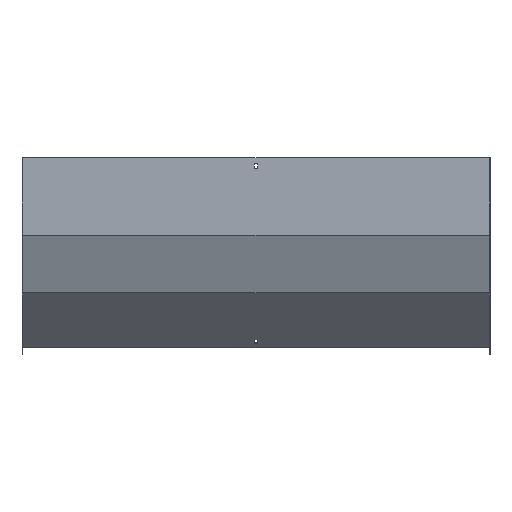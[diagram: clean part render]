
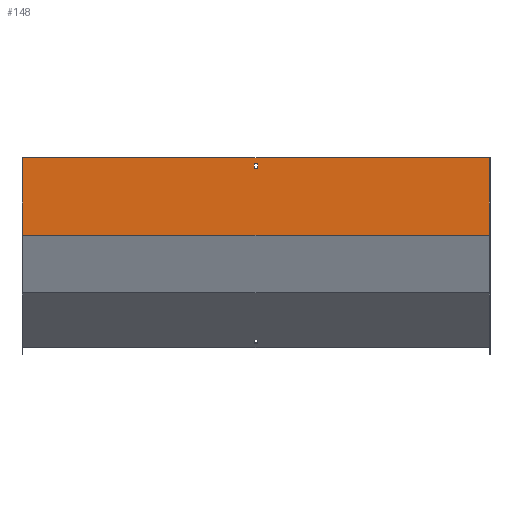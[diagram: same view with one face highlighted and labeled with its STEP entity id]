
A CAD part, front view. The second image highlights one B-rep face of the part: STEP entity #148.
In plain terms, the highlighted planar face has unit normal (0, -1, 0).
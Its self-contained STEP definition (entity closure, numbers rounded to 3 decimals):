
#14 = VERTEX_POINT ( 'NONE', #488 ) ;
#27 = DIRECTION ( 'NONE',  ( -1., 0., 0. ) ) ;
#35 = CARTESIAN_POINT ( 'NONE',  ( 3.25, -1.5, 0. ) ) ;
#38 = CARTESIAN_POINT ( 'NONE',  ( -3.25, -1.5, -12. ) ) ;
#58 = CARTESIAN_POINT ( 'NONE',  ( -3.25, -1.5, 0. ) ) ;
#79 = VERTEX_POINT ( 'NONE', #514 ) ;
#90 = DIRECTION ( 'NONE',  ( 0., 0., -1. ) ) ;
#93 = CARTESIAN_POINT ( 'NONE',  ( -450., -1.5, 0. ) ) ;
#113 = EDGE_CURVE ( 'NONE', #127, #470, #185, .T. ) ;
#118 = ORIENTED_EDGE ( 'NONE', *, *, #176, .T. ) ;
#127 = VERTEX_POINT ( 'NONE', #38 ) ;
#138 = ORIENTED_EDGE ( 'NONE', *, *, #824, .F. ) ;
#148 = ADVANCED_FACE ( 'NONE', ( #689, #347 ), #744, .F. ) ;
#158 = CARTESIAN_POINT ( 'NONE',  ( 450., -1.5, 0. ) ) ;
#159 = VERTEX_POINT ( 'NONE', #680 ) ;
#165 = CARTESIAN_POINT ( 'NONE',  ( -450., -1.5, 0. ) ) ;
#176 = EDGE_CURVE ( 'NONE', #14, #295, #521, .T. ) ;
#180 = VECTOR ( 'NONE', #90, 1000. ) ;
#185 = LINE ( 'NONE', #58, #670 ) ;
#190 = DIRECTION ( 'NONE',  ( 1., 0., 0. ) ) ;
#199 = AXIS2_PLACEMENT_3D ( 'NONE', #608, #361, #567 ) ;
#208 = DIRECTION ( 'NONE',  ( 0., 0., -1. ) ) ;
#221 = VERTEX_POINT ( 'NONE', #727 ) ;
#244 = CARTESIAN_POINT ( 'NONE',  ( 451.5, -1.5, -12. ) ) ;
#279 = VECTOR ( 'NONE', #765, 1000. ) ;
#284 = EDGE_CURVE ( 'NONE', #295, #221, #675, .T. ) ;
#295 = VERTEX_POINT ( 'NONE', #165 ) ;
#335 = CARTESIAN_POINT ( 'NONE',  ( 451.5, -1.5, -21. ) ) ;
#339 = VECTOR ( 'NONE', #27, 1000. ) ;
#344 = CARTESIAN_POINT ( 'NONE',  ( 451.5, -1.5, -150.098 ) ) ;
#345 = VECTOR ( 'NONE', #208, 1000. ) ;
#347 = FACE_BOUND ( 'NONE', #455, .T. ) ;
#359 = ORIENTED_EDGE ( 'NONE', *, *, #401, .F. ) ;
#361 = DIRECTION ( 'NONE',  ( 0., 1., 0. ) ) ;
#373 = LINE ( 'NONE', #35, #279 ) ;
#380 = CARTESIAN_POINT ( 'NONE',  ( 451.5, -1.5, 0. ) ) ;
#400 = EDGE_LOOP ( 'NONE', ( #687, #138, #562, #118 ) ) ;
#401 = EDGE_CURVE ( 'NONE', #159, #127, #842, .T. ) ;
#452 = DIRECTION ( 'NONE',  ( -1., 0., 0. ) ) ;
#455 = EDGE_LOOP ( 'NONE', ( #652, #793, #661, #359 ) ) ;
#463 = LINE ( 'NONE', #335, #578 ) ;
#470 = VERTEX_POINT ( 'NONE', #659 ) ;
#488 = CARTESIAN_POINT ( 'NONE',  ( 450., -1.5, 0. ) ) ;
#514 = CARTESIAN_POINT ( 'NONE',  ( 450., -1.5, -150.098 ) ) ;
#521 = LINE ( 'NONE', #380, #834 ) ;
#533 = VECTOR ( 'NONE', #773, 1000. ) ;
#557 = LINE ( 'NONE', #158, #180 ) ;
#562 = ORIENTED_EDGE ( 'NONE', *, *, #814, .F. ) ;
#567 = DIRECTION ( 'NONE',  ( 0., 0., 1. ) ) ;
#578 = VECTOR ( 'NONE', #190, 1000. ) ;
#608 = CARTESIAN_POINT ( 'NONE',  ( 451.5, -1.5, 0. ) ) ;
#652 = ORIENTED_EDGE ( 'NONE', *, *, #698, .F. ) ;
#659 = CARTESIAN_POINT ( 'NONE',  ( -3.25, -1.5, -21. ) ) ;
#661 = ORIENTED_EDGE ( 'NONE', *, *, #113, .F. ) ;
#670 = VECTOR ( 'NONE', #855, 1000. ) ;
#675 = LINE ( 'NONE', #93, #345 ) ;
#680 = CARTESIAN_POINT ( 'NONE',  ( 3.25, -1.5, -12. ) ) ;
#686 = LINE ( 'NONE', #344, #339 ) ;
#687 = ORIENTED_EDGE ( 'NONE', *, *, #284, .T. ) ;
#689 = FACE_OUTER_BOUND ( 'NONE', #400, .T. ) ;
#698 = EDGE_CURVE ( 'NONE', #822, #159, #373, .T. ) ;
#727 = CARTESIAN_POINT ( 'NONE',  ( -450., -1.5, -150.098 ) ) ;
#744 = PLANE ( 'NONE',  #199 ) ;
#759 = EDGE_CURVE ( 'NONE', #470, #822, #463, .T. ) ;
#765 = DIRECTION ( 'NONE',  ( 0., 0., 1. ) ) ;
#773 = DIRECTION ( 'NONE',  ( -1., 0., 0. ) ) ;
#793 = ORIENTED_EDGE ( 'NONE', *, *, #759, .F. ) ;
#805 = CARTESIAN_POINT ( 'NONE',  ( 3.25, -1.5, -21. ) ) ;
#814 = EDGE_CURVE ( 'NONE', #14, #79, #557, .T. ) ;
#822 = VERTEX_POINT ( 'NONE', #805 ) ;
#824 = EDGE_CURVE ( 'NONE', #79, #221, #686, .T. ) ;
#834 = VECTOR ( 'NONE', #452, 1000. ) ;
#842 = LINE ( 'NONE', #244, #533 ) ;
#855 = DIRECTION ( 'NONE',  ( 0., 0., -1. ) ) ;
